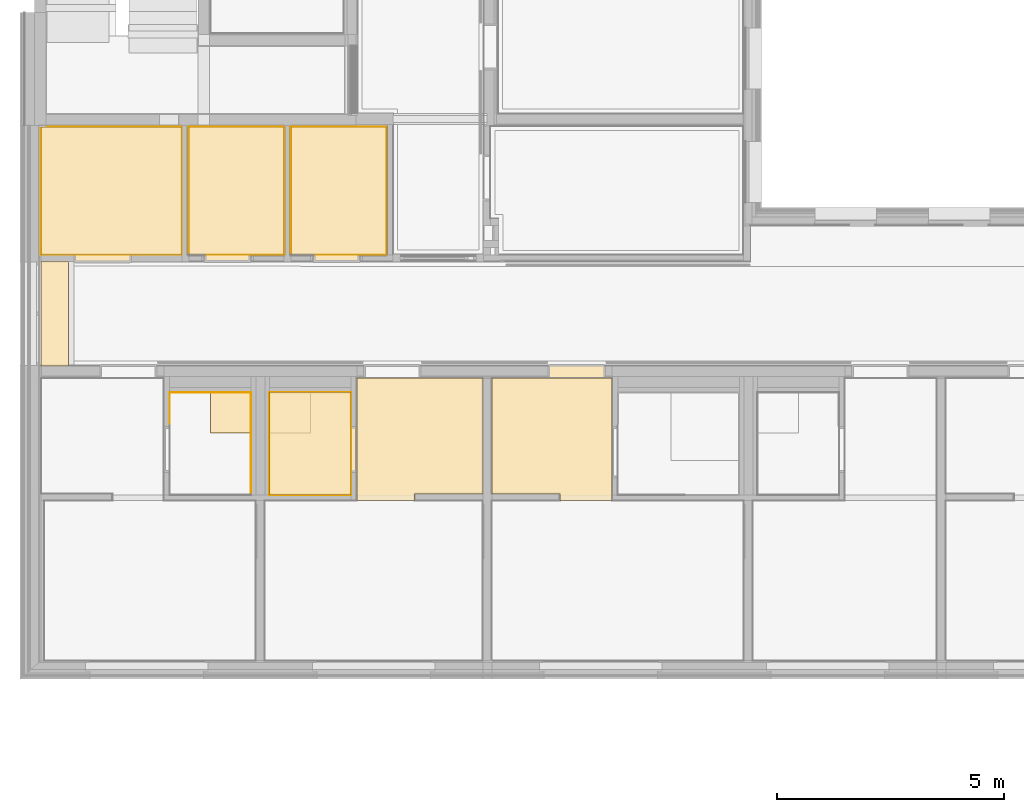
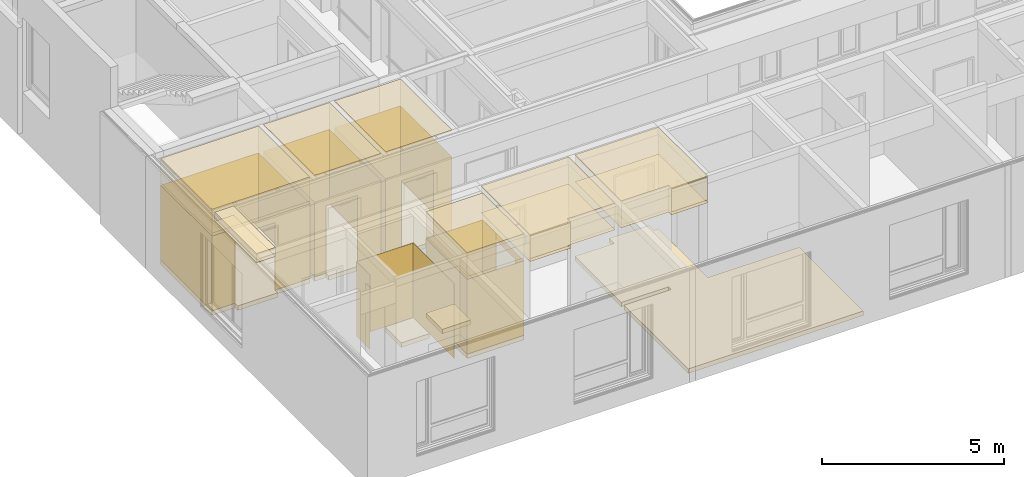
# One storey, part 154 of 222: 36 coverings.
"""IFC4 building model written with IfcOpenShell, lengths in metres."""

from ifc_helpers import new_model, entity, si_unit, converted_unit, derived_unit, frame, frame_2d, origin, origin_with_axes, place, context, subcontext, project, spatial, polyline, rectangle, outline, extrude, material, layer, layer_set, layer_usage, element, save


model = new_model("IFC4")

# Units and contexts
model_context = context("Model", 3, precision=1e-05, world=origin())
body_context = subcontext(model_context, "Body", "Model", "MODEL_VIEW")
ifc_project = project(units=[si_unit("LENGTHUNIT", "METRE"), si_unit("AREAUNIT", "SQUARE_METRE"), si_unit("VOLUMEUNIT", "CUBIC_METRE"), si_unit("MASSUNIT", "GRAM", prefix="KILO"), converted_unit("PLANEANGLEUNIT", "DEGREE", entity("IfcPlaneAngleMeasure", 0.0174532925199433), si_unit("PLANEANGLEUNIT", "RADIAN"), dimensions=[0, 0, 0, 0, 0, 0, 0]), derived_unit("THERMALTRANSMITTANCEUNIT", [(si_unit("POWERUNIT", "WATT"), 1), (si_unit("THERMODYNAMICTEMPERATUREUNIT", "KELVIN"), -1), (si_unit("LENGTHUNIT", "METRE"), -2)]), derived_unit("VOLUMETRICFLOWRATEUNIT", [(si_unit("LENGTHUNIT", "METRE"), 3), (converted_unit("TIMEUNIT", "hour", entity("IfcTimeMeasure", 3600.0), si_unit("TIMEUNIT", "SECOND"), dimensions=[0, 0, 1, 0, 0, 0, 0]), -1), (si_unit("LENGTHUNIT", "METRE"), -1)])], contexts=[model_context])

# Site, building, storey, space
site_placement = place(None, origin())
site = spatial("IfcSite", under=ifc_project, at=site_placement, Name="Psychiatrie Neubau Wunstorf", CompositionType="ELEMENT")
building_placement = place(site_placement, origin())
building = spatial("IfcBuilding", under=site, at=building_placement, Name="Neubau H2 Stationsgebäude", CompositionType="ELEMENT")
storey_placement = place(building_placement, frame((0.0, 0.0, 3.6)))
storey = spatial("IfcBuildingStorey", under=building, at=storey_placement, Name="H2 Ebene +1", CompositionType="ELEMENT", Elevation=3.6)
space_1_placement = place(storey_placement, frame((0.168999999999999, 4.33074963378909, 0.0)))
space_1 = spatial("IfcSpace", under=storey, at=space_1_placement, Name="WUN-H2-E01-073", CompositionType="ELEMENT")

# Coverings
ifc_material_1 = material()
ifc_layer_1 = layer(ifc_material_1, 0.036)
ifc_layer_set_1 = layer_set([ifc_layer_1])
ifc_layer_usage_1 = layer_usage(ifc_layer_set_1, "AXIS3", "POSITIVE", 0.0)
covering_1_placement = place(space_1_placement, frame((0.0, 0.0, 3.55)))
element("IfcCovering", 1, at=covering_1_placement, inside=space_1, material=ifc_layer_usage_1, Name="Gipsfaserplatten 2-lagig (BSK)", PredefinedType="CEILING", context=body_context, shape_type="SweptSolid", body=[
    extrude(rectangle(XDim=0.601, YDim=2.2942502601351, at=frame_2d((-0.3005, -1.14712513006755), x_axis=(-1.0, 0.0))), frame((0.601, 0.0, 0.0), z_axis=(0.0, 0.0, -1.0), x_axis=(1.0, 0.0, 0.0)), (0.0, 0.0, 1.0), 0.036),
])
ifc_material_2 = material(Name="Installationshöhe")
ifc_layer_2 = layer(ifc_material_2, 0.164)
ifc_layer_set_2 = layer_set([ifc_layer_2])
ifc_layer_usage_2 = layer_usage(ifc_layer_set_2, "AXIS3", "POSITIVE", 0.0)
covering_2_placement = place(space_1_placement, frame((0.0, 0.0, 3.514)))
element("IfcCovering", 2, at=covering_2_placement, inside=space_1, material=ifc_layer_usage_2, Name="Gipsfaserplatten 2-lagig (BSK)", PredefinedType="CEILING", context=body_context, shape_type="SweptSolid", body=[
    extrude(rectangle(XDim=0.601, YDim=2.2942502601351, at=frame_2d((-0.3005, -1.14712513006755), x_axis=(-1.0, 0.0))), frame((0.601, 0.0, 0.0), z_axis=(0.0, 0.0, -1.0), x_axis=(1.0, 0.0, 0.0)), (0.0, 0.0, 1.0), 0.164),
])
ifc_material_3 = material(Name="A1")
ifc_layer_3 = layer(ifc_material_3, 0.1)
ifc_layer_set_3 = layer_set([ifc_layer_3])
ifc_layer_usage_3 = layer_usage(ifc_layer_set_3, "AXIS3", "POSITIVE", 0.0)
covering_3_placement = place(space_1_placement, frame((0.0, 0.0, 3.35)))
element("IfcCovering", 3, at=covering_3_placement, inside=space_1, material=ifc_layer_usage_3, Name="Gipsfaserplatten 2-lagig (BSK)", PredefinedType="CEILING", context=body_context, shape_type="SweptSolid", body=[
    extrude(rectangle(XDim=0.601, YDim=2.2942502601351, at=frame_2d((-0.3005, -1.14712513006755), x_axis=(-1.0, 0.0))), frame((0.601, 0.0, 0.0), z_axis=(0.0, 0.0, -1.0), x_axis=(1.0, 0.0, 0.0)), (0.0, 0.0, 1.0), 0.1),
])
ifc_material_4 = material(Name="D1")
ifc_layer_4 = layer(ifc_material_4, 0.001)
ifc_layer_set_4 = layer_set([ifc_layer_4])
ifc_layer_usage_4 = layer_usage(ifc_layer_set_4, "AXIS3", "POSITIVE", 0.0)
covering_4_placement = place(space_1_placement, frame((0.0, 0.0, 3.25)))
element("IfcCovering", 4, at=covering_4_placement, inside=space_1, material=ifc_layer_usage_4, Name="Gipsfaserplatten 2-lagig (BSK)", PredefinedType="CEILING", context=body_context, shape_type="SweptSolid", body=[
    extrude(rectangle(XDim=0.601, YDim=2.2942502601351, at=frame_2d((-0.3005, -1.14712513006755), x_axis=(-1.0, 0.0))), frame((0.601, 0.0, 0.0), z_axis=(0.0, 0.0, -1.0), x_axis=(1.0, 0.0, 0.0)), (0.0, 0.0, 1.0), 0.001),
])

# Space
space_2_placement = place(storey_placement, frame((10.1, -2.16399999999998, 0.0)))
space_2 = spatial("IfcSpace", under=storey, at=space_2_placement, Name="WUN-H2-E01-023", CompositionType="ELEMENT")

# Coverings
ifc_material_5 = material()
ifc_layer_5 = layer(ifc_material_5, 0.036)
ifc_layer_set_5 = layer_set([ifc_layer_5])
ifc_layer_usage_5 = layer_usage(ifc_layer_set_5, "AXIS3", "POSITIVE", 0.0)
covering_5_placement = place(space_2_placement, frame((0.0, 3.52274963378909, 3.55)))
element("IfcCovering", 5, at=covering_5_placement, inside=space_2, material=ifc_layer_usage_5, Name="Gipsfaserplatten 2-lagig (BSK)", PredefinedType="CEILING", context=body_context, shape_type="SweptSolid", body=[
    extrude(outline(polyline([(0.0, 0.0), (2.65, 0.0), (2.65, 2.69999999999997), (1.50000000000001, 2.69999999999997), (1.50000000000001, 2.54999999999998), (0.0, 2.54999999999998), (0.0, 0.0)])), frame((0.0, 2.69999999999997, 0.0), z_axis=(0.0, 0.0, -1.0), x_axis=(1.0, 0.0, 0.0)), (0.0, 0.0, 1.0), 0.036),
])
ifc_material_6 = material(Name="Installationshöhe")
ifc_layer_6 = layer(ifc_material_6, 0.764)
ifc_layer_set_6 = layer_set([ifc_layer_6])
ifc_layer_usage_6 = layer_usage(ifc_layer_set_6, "AXIS3", "POSITIVE", 0.0)
covering_6_placement = place(space_2_placement, frame((0.0, 3.52274963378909, 3.514)))
element("IfcCovering", 6, at=covering_6_placement, inside=space_2, material=ifc_layer_usage_6, Name="Gipsfaserplatten 2-lagig (BSK)", PredefinedType="CEILING", context=body_context, shape_type="SweptSolid", body=[
    extrude(outline(polyline([(0.0, 0.0), (2.65, 0.0), (2.65, 2.69999999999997), (1.50000000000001, 2.69999999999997), (1.50000000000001, 2.54999999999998), (0.0, 2.54999999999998), (0.0, 0.0)])), frame((0.0, 2.69999999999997, 0.0), z_axis=(0.0, 0.0, -1.0), x_axis=(1.0, 0.0, 0.0)), (0.0, 0.0, 1.0), 0.764),
])
ifc_material_7 = material(Name="A1")
ifc_layer_7 = layer(ifc_material_7, 0.1)
ifc_layer_set_7 = layer_set([ifc_layer_7])
ifc_layer_usage_7 = layer_usage(ifc_layer_set_7, "AXIS3", "POSITIVE", 0.0)
covering_7_placement = place(space_2_placement, frame((0.0, 3.52274963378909, 2.75)))
element("IfcCovering", 7, at=covering_7_placement, inside=space_2, material=ifc_layer_usage_7, Name="Gipsfaserplatten 2-lagig (BSK)", PredefinedType="CEILING", context=body_context, shape_type="SweptSolid", body=[
    extrude(outline(polyline([(0.0, 0.0), (2.65, 0.0), (2.65, 2.69999999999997), (1.50000000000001, 2.69999999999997), (1.50000000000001, 2.54999999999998), (0.0, 2.54999999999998), (0.0, 0.0)])), frame((0.0, 2.69999999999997, 0.0), z_axis=(0.0, 0.0, -1.0), x_axis=(1.0, 0.0, 0.0)), (0.0, 0.0, 1.0), 0.1),
])
ifc_material_8 = material(Name="D1")
ifc_layer_8 = layer(ifc_material_8, 0.001)
ifc_layer_set_8 = layer_set([ifc_layer_8])
ifc_layer_usage_8 = layer_usage(ifc_layer_set_8, "AXIS3", "POSITIVE", 0.0)
covering_8_placement = place(space_2_placement, frame((0.0, 3.52274963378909, 2.65)))
element("IfcCovering", 8, at=covering_8_placement, inside=space_2, material=ifc_layer_usage_8, Name="Gipsfaserplatten 2-lagig (BSK)", PredefinedType="CEILING", context=body_context, shape_type="SweptSolid", body=[
    extrude(outline(polyline([(0.0, 0.0), (2.65, 0.0), (2.65, 2.69999999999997), (1.50000000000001, 2.69999999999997), (1.50000000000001, 2.54999999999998), (0.0, 2.54999999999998), (0.0, 0.0)])), frame((0.0, 2.69999999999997, 0.0), z_axis=(0.0, 0.0, -1.0), x_axis=(1.0, 0.0, 0.0)), (0.0, 0.0, 1.0), 0.001),
])
ifc_material_9 = material(Name="Ku1")
ifc_layer_9 = layer(ifc_material_9, 0.15)
ifc_layer_set_9 = layer_set([ifc_layer_9])
ifc_layer_usage_9 = layer_usage(ifc_layer_set_9, "AXIS3", "POSITIVE", 0.0)
covering_9_placement = place(space_2_placement, origin())
element("IfcCovering", 9, at=covering_9_placement, inside=space_2, material=ifc_layer_usage_9, Name="PVC Bahnenware Holzoptik", PredefinedType="FLOORING", context=body_context, shape_type="SweptSolid", body=[
    extrude(rectangle(XDim=0.271999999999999, YDim=1.26, at=frame_2d((-0.63, 0.136), x_axis=(0.0, 1.0))), frame((2.5, 6.22274963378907, 0.0), z_axis=(0.0, 0.0, 1.0), x_axis=(1.0, 0.0, 0.0)), (0.0, 0.0, 1.0), 0.15),
    extrude(outline(polyline([(1.50000000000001, 3.52274963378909), (0.0, 3.52274963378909), (0.0, 0.0), (5.55, 0.0), (5.55, 3.52274963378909), (2.65, 3.52274963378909), (2.65, 6.22274963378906), (0.0, 6.22274963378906), (0.0, 3.67274963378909), (1.50000000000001, 3.67274963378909), (1.50000000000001, 3.52274963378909)])), origin_with_axes(), (0.0, 0.0, 1.0), 0.15),
])

# Space
space_3_placement = place(storey_placement, frame((5.1, -2.16399999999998, 0.0)))
space_3 = spatial("IfcSpace", under=storey, at=space_3_placement, Name="WUN-H2-E01-024", CompositionType="ELEMENT")

# Coverings
ifc_material_10 = material()
ifc_layer_10 = layer(ifc_material_10, 0.036)
ifc_layer_set_10 = layer_set([ifc_layer_10])
ifc_layer_usage_10 = layer_usage(ifc_layer_set_10, "AXIS3", "POSITIVE", 0.0)
covering_10_placement = place(space_3_placement, frame((2.025, 3.52274963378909, 3.55)))
element("IfcCovering", 10, at=covering_10_placement, inside=space_3, material=ifc_layer_usage_10, Name="Gipsfaserplatten 2-lagig (BSK)", PredefinedType="CEILING", context=body_context, shape_type="SweptSolid", body=[
    extrude(outline(polyline([(2.77499999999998, 0.0), (2.775, 2.54999999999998), (1.27499999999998, 2.54999999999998), (1.27499999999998, 2.69999999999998), (0.0, 2.69999999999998), (0.0, 0.0), (2.77499999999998, 0.0)])), frame((0.0, 2.69999999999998, 0.0), z_axis=(0.0, 0.0, -1.0), x_axis=(1.0, 0.0, 0.0)), (0.0, 0.0, 1.0), 0.036),
])
ifc_material_11 = material(Name="Installationshöhe")
ifc_layer_11 = layer(ifc_material_11, 0.764)
ifc_layer_set_11 = layer_set([ifc_layer_11])
ifc_layer_usage_11 = layer_usage(ifc_layer_set_11, "AXIS3", "POSITIVE", 0.0)
covering_11_placement = place(space_3_placement, frame((2.025, 3.52274963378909, 3.514)))
element("IfcCovering", 11, at=covering_11_placement, inside=space_3, material=ifc_layer_usage_11, Name="Gipsfaserplatten 2-lagig (BSK)", PredefinedType="CEILING", context=body_context, shape_type="SweptSolid", body=[
    extrude(outline(polyline([(2.77499999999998, 0.0), (2.775, 2.54999999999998), (1.27499999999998, 2.54999999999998), (1.27499999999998, 2.69999999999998), (0.0, 2.69999999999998), (0.0, 0.0), (2.77499999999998, 0.0)])), frame((0.0, 2.69999999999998, 0.0), z_axis=(0.0, 0.0, -1.0), x_axis=(1.0, 0.0, 0.0)), (0.0, 0.0, 1.0), 0.764),
])
ifc_material_12 = material(Name="A1")
ifc_layer_12 = layer(ifc_material_12, 0.1)
ifc_layer_set_12 = layer_set([ifc_layer_12])
ifc_layer_usage_12 = layer_usage(ifc_layer_set_12, "AXIS3", "POSITIVE", 0.0)
covering_12_placement = place(space_3_placement, frame((2.025, 3.52274963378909, 2.75)))
element("IfcCovering", 12, at=covering_12_placement, inside=space_3, material=ifc_layer_usage_12, Name="Gipsfaserplatten 2-lagig (BSK)", PredefinedType="CEILING", context=body_context, shape_type="SweptSolid", body=[
    extrude(outline(polyline([(2.77499999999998, 0.0), (2.775, 2.54999999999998), (1.27499999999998, 2.54999999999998), (1.27499999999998, 2.69999999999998), (0.0, 2.69999999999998), (0.0, 0.0), (2.77499999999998, 0.0)])), frame((0.0, 2.69999999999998, 0.0), z_axis=(0.0, 0.0, -1.0), x_axis=(1.0, 0.0, 0.0)), (0.0, 0.0, 1.0), 0.1),
])
ifc_material_13 = material(Name="D1")
ifc_layer_13 = layer(ifc_material_13, 0.001)
ifc_layer_set_13 = layer_set([ifc_layer_13])
ifc_layer_usage_13 = layer_usage(ifc_layer_set_13, "AXIS3", "POSITIVE", 0.0)
covering_13_placement = place(space_3_placement, frame((2.025, 3.52274963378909, 2.65)))
element("IfcCovering", 13, at=covering_13_placement, inside=space_3, material=ifc_layer_usage_13, Name="Gipsfaserplatten 2-lagig (BSK)", PredefinedType="CEILING", context=body_context, shape_type="SweptSolid", body=[
    extrude(outline(polyline([(2.77499999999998, 0.0), (2.775, 2.54999999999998), (1.27499999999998, 2.54999999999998), (1.27499999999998, 2.69999999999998), (0.0, 2.69999999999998), (0.0, 0.0), (2.77499999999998, 0.0)])), frame((0.0, 2.69999999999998, 0.0), z_axis=(0.0, 0.0, -1.0), x_axis=(1.0, 0.0, 0.0)), (0.0, 0.0, 1.0), 0.001),
])

# Space
space_4_placement = place(storey_placement, frame((5.2, 1.4837496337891, 0.0)))
space_4 = spatial("IfcSpace", under=storey, at=space_4_placement, Name="WUN-H2-E01-024a", CompositionType="ELEMENT")

# Coverings
ifc_material_14 = material(Name="Fl2")
ifc_layer_14 = layer(ifc_material_14, 0.15)
ifc_layer_set_14 = layer_set([ifc_layer_14])
ifc_layer_usage_14 = layer_usage(ifc_layer_set_14, "AXIS3", "POSITIVE", 0.0)
covering_14_placement = place(space_4_placement, frame((0.0, 1.36499999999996, 0.0)))
element("IfcCovering", 14, at=covering_14_placement, inside=space_4, material=ifc_layer_usage_14, Name="Fliesen Mosaik", PredefinedType="FLOORING", context=body_context, shape_type="SweptSolid", body=[
    extrude(rectangle(XDim=0.9, YDim=0.9, at=frame_2d((0.45, -0.45), x_axis=(0.0, -1.0))), frame((0.0, 0.9, 0.0), z_axis=(0.0, 0.0, 1.0), x_axis=(1.0, 0.0, 0.0)), (0.0, 0.0, 1.0), 0.15),
])
ifc_material_15 = material(Name="Fl1")
ifc_layer_15 = layer(ifc_material_15, 0.15)
ifc_layer_set_15 = layer_set([ifc_layer_15])
ifc_layer_usage_15 = layer_usage(ifc_layer_set_15, "AXIS3", "POSITIVE", 0.0)
covering_15_placement = place(space_4_placement, origin())
element("IfcCovering", 15, at=covering_15_placement, inside=space_4, material=ifc_layer_usage_15, Name="Fliesen", PredefinedType="FLOORING", context=body_context, shape_type="SweptSolid", body=[
    extrude(rectangle(XDim=0.125, YDim=1.01, at=frame_2d((-0.0625, -0.505), x_axis=(-1.0, 0.0))), frame((1.925, 1.51000000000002, 0.0), z_axis=(0.0, 0.0, 1.0), x_axis=(1.0, 0.0, 0.0)), (0.0, 0.0, 1.0), 0.15),
    extrude(outline(polyline([(0.0, 0.0), (1.8, 0.0), (1.8, 2.26499999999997), (0.899999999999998, 2.26499999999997), (0.899999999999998, 1.36499999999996), (0.0, 1.36499999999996), (0.0, 0.0)])), origin_with_axes(), (0.0, 0.0, 1.0), 0.15),
])
ifc_material_16 = material()
ifc_layer_16 = layer(ifc_material_16, 0.036)
ifc_layer_set_16 = layer_set([ifc_layer_16])
ifc_layer_usage_16 = layer_usage(ifc_layer_set_16, "AXIS3", "POSITIVE", 0.0)
covering_16_placement = place(space_4_placement, frame((0.0, 0.0, 3.55)))
element("IfcCovering", 16, at=covering_16_placement, inside=space_4, material=ifc_layer_usage_16, Name="Gipsfaserplatten 2-lagig (BSK)", PredefinedType="CEILING", context=body_context, shape_type="SweptSolid", body=[
    extrude(rectangle(XDim=1.8, YDim=2.26499999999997, at=frame_2d((0.9, 1.13249999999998), x_axis=(1.0, 0.0))), frame((0.0, 2.26499999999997, 0.0), z_axis=(0.0, 0.0, -1.0), x_axis=(1.0, 0.0, 0.0)), (0.0, 0.0, 1.0), 0.036),
])
ifc_material_17 = material(Name="Installationshöhe")
ifc_layer_17 = layer(ifc_material_17, 0.764)
ifc_layer_set_17 = layer_set([ifc_layer_17])
ifc_layer_usage_17 = layer_usage(ifc_layer_set_17, "AXIS3", "POSITIVE", 0.0)
covering_17_placement = place(space_4_placement, frame((0.0, 0.0, 3.514)))
element("IfcCovering", 17, at=covering_17_placement, inside=space_4, material=ifc_layer_usage_17, Name="Gipsfaserplatten 2-lagig (BSK)", PredefinedType="CEILING", context=body_context, shape_type="SweptSolid", body=[
    extrude(rectangle(XDim=1.8, YDim=2.26499999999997, at=frame_2d((0.9, 1.13249999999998), x_axis=(1.0, 0.0))), frame((0.0, 2.26499999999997, 0.0), z_axis=(0.0, 0.0, -1.0), x_axis=(1.0, 0.0, 0.0)), (0.0, 0.0, 1.0), 0.764),
])
ifc_material_18 = material(Name="B")
ifc_layer_18 = layer(ifc_material_18, 0.1)
ifc_layer_set_18 = layer_set([ifc_layer_18])
ifc_layer_usage_18 = layer_usage(ifc_layer_set_18, "AXIS3", "POSITIVE", 0.0)
covering_18_placement = place(space_4_placement, frame((0.0, 0.0, 2.75)))
element("IfcCovering", 18, at=covering_18_placement, inside=space_4, material=ifc_layer_usage_18, Name="Gipskarton, imprägniert", PredefinedType="CEILING", context=body_context, shape_type="SweptSolid", body=[
    extrude(rectangle(XDim=1.8, YDim=2.26499999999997, at=frame_2d((0.9, 1.13249999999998), x_axis=(1.0, 0.0))), frame((0.0, 2.26499999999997, 0.0), z_axis=(0.0, 0.0, -1.0), x_axis=(1.0, 0.0, 0.0)), (0.0, 0.0, 1.0), 0.1),
])
ifc_material_19 = material(Name="D1")
ifc_layer_19 = layer(ifc_material_19, 0.001)
ifc_layer_set_19 = layer_set([ifc_layer_19])
ifc_layer_usage_19 = layer_usage(ifc_layer_set_19, "AXIS3", "POSITIVE", 0.0)
covering_19_placement = place(space_4_placement, frame((0.0, 0.0, 2.65)))
element("IfcCovering", 19, at=covering_19_placement, inside=space_4, material=ifc_layer_usage_19, Name="Gipsfaserplatten 2-lagig (BSK)", PredefinedType="CEILING", context=body_context, shape_type="SweptSolid", body=[
    extrude(rectangle(XDim=1.8, YDim=2.26499999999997, at=frame_2d((0.9, 1.13249999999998), x_axis=(1.0, 0.0))), frame((0.0, 2.26499999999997, 0.0), z_axis=(0.0, 0.0, -1.0), x_axis=(1.0, 0.0, 0.0)), (0.0, 0.0, 1.0), 0.001),
])
ifc_material_20 = material(Name="50")
ifc_layer_20 = layer(ifc_material_20, 0.001)
ifc_layer_set_20 = layer_set([ifc_layer_20])
ifc_layer_usage_20 = layer_usage(ifc_layer_set_20, "AXIS3", "POSITIVE", 0.0)
covering_20_placement = place(space_4_placement, frame((0.0, 0.0, 0.15)))
element("IfcCovering", 20, at=covering_20_placement, inside=space_4, material=ifc_layer_usage_20, PredefinedType="CLADDING", context=body_context, shape_type="SweptSolid", body=[
    extrude(rectangle(XDim=1.8, YDim=2.5, at=frame_2d((0.9, -1.25), x_axis=(1.0, 0.0))), frame((0.0, 0.0, 0.0), z_axis=(0.0, 1.0, 0.0), x_axis=(1.0, 0.0, 0.0)), (0.0, 0.0, 1.0), 0.001),
    extrude(outline(polyline([(0.0, 2.5), (0.500000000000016, 2.5), (0.500000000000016, 0.24), (1.51000000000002, 0.24), (1.51000000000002, 2.5), (1.52500000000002, 2.5), (1.52500000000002, 0.0), (0.0, 0.0), (0.0, 2.5)])), frame((1.8, 0.0, 2.5), z_axis=(-1.0, -1.11521462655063e-17, -6.99332505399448e-17), x_axis=(-1.11521462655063e-17, 1.0, 0.0)), (0.0, 0.0, 1.0), 0.001),
])
ifc_material_21 = material(Name="68")
ifc_layer_21 = layer(ifc_material_21, 0.01)
ifc_layer_set_21 = layer_set([ifc_layer_21])
ifc_layer_usage_21 = layer_usage(ifc_layer_set_21, "AXIS3", "POSITIVE", 0.0)
covering_21_placement = place(space_4_placement, frame((0.0, 0.0, 0.15)))
element("IfcCovering", 21, at=covering_21_placement, inside=space_4, material=ifc_layer_usage_21, Name="a-sh Wandbelag", PredefinedType="CLADDING", context=body_context, shape_type="SweptSolid", body=[
    extrude(rectangle(XDim=0.739999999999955, YDim=2.5, at=frame_2d((0.369999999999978, -1.25), x_axis=(1.0, 0.0))), frame((1.8, 1.52500000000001, 0.0), z_axis=(-1.0, 0.0, 0.0), x_axis=(0.0, 1.0, 0.0)), (0.0, 0.0, 1.0), 0.01),
    extrude(rectangle(XDim=2.26499999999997, YDim=2.5, at=frame_2d((1.13249999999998, -1.25), x_axis=(1.0, 0.0))), frame((0.0, 2.26499999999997, 0.0), z_axis=(1.0, 0.0, 0.0), x_axis=(0.0, -1.0, 0.0)), (0.0, 0.0, 1.0), 0.01),
    extrude(rectangle(XDim=1.8, YDim=2.5, at=frame_2d((0.899999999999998, -1.25), x_axis=(1.0, 0.0))), frame((1.8, 2.26499999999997, 0.0), z_axis=(0.0, -1.0, 0.0), x_axis=(-1.0, 0.0, 0.0)), (0.0, 0.0, 1.0), 0.01),
])

# Space
space_5_placement = place(storey_placement, frame((3.0, 1.48374963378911, 0.0)))
space_5 = spatial("IfcSpace", under=storey, at=space_5_placement, Name="WUN-H2-E01-025a", CompositionType="ELEMENT")

# Coverings
ifc_material_22 = material(Name="Fl2")
ifc_layer_22 = layer(ifc_material_22, 0.15)
ifc_layer_set_22 = layer_set([ifc_layer_22])
ifc_layer_usage_22 = layer_usage(ifc_layer_set_22, "AXIS3", "POSITIVE", 0.0)
covering_22_placement = place(space_5_placement, frame((0.9, 1.36499999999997, 0.0)))
element("IfcCovering", 22, at=covering_22_placement, inside=space_5, material=ifc_layer_usage_22, Name="Fliesen Mosaik", PredefinedType="FLOORING", context=body_context, shape_type="SweptSolid", body=[
    extrude(rectangle(XDim=0.9, YDim=0.899999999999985, at=frame_2d((-0.45, -0.449999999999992), x_axis=(-1.0, 0.0))), frame((0.9, 0.899999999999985, 0.0), z_axis=(0.0, 0.0, 1.0), x_axis=(1.0, 0.0, 0.0)), (0.0, 0.0, 1.0), 0.15),
])
ifc_material_23 = material(Name="68")
ifc_layer_23 = layer(ifc_material_23, 0.01)
ifc_layer_set_23 = layer_set([ifc_layer_23])
ifc_layer_usage_23 = layer_usage(ifc_layer_set_23, "AXIS3", "POSITIVE", 0.0)
covering_23_placement = place(space_5_placement, frame((0.0, 0.0, 0.15)))
element("IfcCovering", 23, at=covering_23_placement, inside=space_5, material=ifc_layer_usage_23, Name="a-sh Wandbelag", PredefinedType="CLADDING", context=body_context, shape_type="SweptSolid", body=[
    extrude(rectangle(XDim=2.26499999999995, YDim=2.5, at=frame_2d((1.13249999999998, -1.25), x_axis=(1.0, 0.0))), frame((1.8, 0.0, 0.0), z_axis=(-1.0, 0.0, 0.0), x_axis=(0.0, 1.0, 0.0)), (0.0, 0.0, 1.0), 0.01),
    extrude(rectangle(XDim=0.739999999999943, YDim=2.5, at=frame_2d((0.369999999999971, -1.25), x_axis=(1.0, 0.0))), frame((0.0, 2.26499999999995, 0.0), z_axis=(1.0, 0.0, 0.0), x_axis=(0.0, -1.0, 0.0)), (0.0, 0.0, 1.0), 0.01),
    extrude(rectangle(XDim=1.8, YDim=2.5, at=frame_2d((0.9, -1.25), x_axis=(1.0, 0.0))), frame((1.8, 2.26499999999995, 0.0), z_axis=(0.0, -1.0, 0.0), x_axis=(-1.0, 0.0, 0.0)), (0.0, 0.0, 1.0), 0.01),
])

# Space
space_6_placement = place(storey_placement, frame((3.425, 6.77499989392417, 0.0)))
space_6 = spatial("IfcSpace", under=storey, at=space_6_placement, Name="WUN-H2-E01-027", CompositionType="ELEMENT")

# Coverings
ifc_material_24 = material(Name="Ku3")
ifc_layer_24 = layer(ifc_material_24, 0.15)
ifc_layer_set_24 = layer_set([ifc_layer_24])
ifc_layer_usage_24 = layer_usage(ifc_layer_set_24, "AXIS3", "POSITIVE", 0.0)
covering_24_placement = place(space_6_placement, frame((0.0, -0.150000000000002, 0.0)))
element("IfcCovering", 24, at=covering_24_placement, inside=space_6, material=ifc_layer_usage_24, Name="PVC", PredefinedType="FLOORING", context=body_context, shape_type="SweptSolid", body=[
    extrude(rectangle(XDim=0.15, YDim=1.01, at=frame_2d((-0.505, 0.075), x_axis=(0.0, 1.0))), frame((1.36, 0.0, 0.0), z_axis=(0.0, 0.0, 1.0), x_axis=(1.0, 0.0, 0.0)), (0.0, 0.0, 1.0), 0.15),
    extrude(rectangle(XDim=2.82, YDim=2.1, at=frame_2d((-1.05, 1.41), x_axis=(0.0, 1.0))), frame((2.1, 0.150000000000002, 0.0), z_axis=(0.0, 0.0, 1.0), x_axis=(1.0, 0.0, 0.0)), (0.0, 0.0, 1.0), 0.15),
])
ifc_material_25 = material(Name="C/C")
ifc_layer_25 = layer(ifc_material_25, 0.036)
ifc_layer_set_25 = layer_set([ifc_layer_25])
ifc_layer_usage_25 = layer_usage(ifc_layer_set_25, "AXIS3", "POSITIVE", 0.0)
covering_25_placement = place(space_6_placement, frame((0.0, 0.0, 3.55)))
element("IfcCovering", 25, at=covering_25_placement, inside=space_6, material=ifc_layer_usage_25, Name="Gipsfaserplatten 2-lagig (BSK)", PredefinedType="CEILING", context=body_context, shape_type="SweptSolid", body=[
    extrude(rectangle(XDim=2.82, YDim=2.1, at=frame_2d((-1.05, 1.41), x_axis=(0.0, 1.0))), frame((2.1, 2.82, 0.0), z_axis=(0.0, 0.0, -1.0), x_axis=(1.0, 0.0, 0.0)), (0.0, 0.0, 1.0), 0.036),
])
ifc_material_26 = material(Name="D4")
ifc_layer_26 = layer(ifc_material_26, 0.001)
ifc_layer_set_26 = layer_set([ifc_layer_26])
ifc_layer_usage_26 = layer_usage(ifc_layer_set_26, "AXIS3", "POSITIVE", 0.0)
covering_26_placement = place(space_6_placement, frame((0.0, 0.0, 3.514)))
element("IfcCovering", 26, at=covering_26_placement, inside=space_6, material=ifc_layer_usage_26, Name="Gipsfaserplatten 2-lagig (BSK)", PredefinedType="CEILING", context=body_context, shape_type="SweptSolid", body=[
    extrude(rectangle(XDim=2.82, YDim=2.1, at=frame_2d((-1.05, 1.41), x_axis=(0.0, 1.0))), frame((2.1, 2.82, 0.0), z_axis=(0.0, 0.0, -1.0), x_axis=(1.0, 0.0, 0.0)), (0.0, 0.0, 1.0), 0.001),
])
ifc_material_27 = material(Name="50")
ifc_layer_27 = layer(ifc_material_27, 0.001)
ifc_layer_set_27 = layer_set([ifc_layer_27])
ifc_layer_usage_27 = layer_usage(ifc_layer_set_27, "AXIS3", "POSITIVE", 0.0)
covering_27_placement = place(space_6_placement, frame((0.0, 0.0, 0.15)))
element("IfcCovering", 27, at=covering_27_placement, inside=space_6, material=ifc_layer_usage_27, PredefinedType="CLADDING", context=body_context, shape_type="SweptSolid", body=[
    extrude(rectangle(XDim=2.82, YDim=2.5, at=frame_2d((1.41, -1.25), x_axis=(1.0, 0.0))), frame((0.0, 2.82, 0.0), z_axis=(1.0, 8.0628962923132e-16, 0.0), x_axis=(8.0628962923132e-16, -1.0, 0.0)), (0.0, 0.0, 1.0), 0.001),
    extrude(outline(polyline([(0.0, 2.5), (0.349999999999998, 2.5), (0.349999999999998, 0.24), (1.36, 0.24), (1.36, 2.5), (2.1, 2.5), (2.1, 0.0), (0.0, 0.0), (0.0, 2.5)])), frame((0.0, 0.0, 2.5), z_axis=(-8.61984963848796e-18, 1.0, 2.56799687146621e-16), x_axis=(1.0, 8.61984963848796e-18, 0.0)), (0.0, 0.0, 1.0), 0.001),
    extrude(rectangle(XDim=2.82, YDim=2.5, at=frame_2d((1.41, -1.25), x_axis=(1.0, 0.0))), frame((2.1, 0.0, 0.0), z_axis=(-1.0, 0.0, 0.0), x_axis=(0.0, 1.0, 0.0)), (0.0, 0.0, 1.0), 0.001),
    extrude(rectangle(XDim=2.1, YDim=2.5, at=frame_2d((1.05, -1.25), x_axis=(1.0, 0.0))), frame((2.1, 2.82, 0.0), z_axis=(0.0, -1.0, 0.0), x_axis=(-1.0, 0.0, 0.0)), (0.0, 0.0, 1.0), 0.001),
])

# Space
space_7_placement = place(storey_placement, frame((5.675, 6.77499989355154, 0.0)))
space_7 = spatial("IfcSpace", under=storey, at=space_7_placement, Name="WUN-H2-E01-028", CompositionType="ELEMENT")

# Coverings
ifc_material_28 = material(Name="Ku3")
ifc_layer_28 = layer(ifc_material_28, 0.15)
ifc_layer_set_28 = layer_set([ifc_layer_28])
ifc_layer_usage_28 = layer_usage(ifc_layer_set_28, "AXIS3", "POSITIVE", 0.0)
covering_28_placement = place(space_7_placement, frame((0.0, -0.149999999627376, 0.0)))
element("IfcCovering", 28, at=covering_28_placement, inside=space_7, material=ifc_layer_usage_28, Name="PVC", PredefinedType="FLOORING", context=body_context, shape_type="SweptSolid", body=[
    extrude(rectangle(XDim=0.15, YDim=1.01, at=frame_2d((-0.505, 0.075), x_axis=(0.0, 1.0))), frame((1.51, 0.0, 0.0), z_axis=(0.0, 0.0, 1.0), x_axis=(1.0, 0.0, 0.0)), (0.0, 0.0, 1.0), 0.15),
    extrude(rectangle(XDim=2.1, YDim=2.8200003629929, at=frame_2d((1.05, 1.41000018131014), x_axis=(1.0, -1.77439817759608e-10))), frame((0.0, 0.15, 0.0), z_axis=(0.0, 0.0, 1.0), x_axis=(1.0, 0.0, 0.0)), (0.0, 0.0, 1.0), 0.15),
])
ifc_material_29 = material(Name="C/C")
ifc_layer_29 = layer(ifc_material_29, 0.036)
ifc_layer_set_29 = layer_set([ifc_layer_29])
ifc_layer_usage_29 = layer_usage(ifc_layer_set_29, "AXIS3", "POSITIVE", 0.0)
covering_29_placement = place(space_7_placement, frame((0.0, 0.0, 3.55)))
element("IfcCovering", 29, at=covering_29_placement, inside=space_7, material=ifc_layer_usage_29, Name="Gipsfaserplatten 2-lagig (BSK)", PredefinedType="CEILING", context=body_context, shape_type="SweptSolid", body=[
    extrude(rectangle(XDim=2.1, YDim=2.82000036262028, at=frame_2d((-1.05, -1.41000018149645), x_axis=(-1.0, -1.77439817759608e-10))), frame((2.1, 0.0, 0.0), z_axis=(0.0, 0.0, -1.0), x_axis=(1.0, 0.0, 0.0)), (0.0, 0.0, 1.0), 0.036),
])
ifc_material_30 = material(Name="D4")
ifc_layer_30 = layer(ifc_material_30, 0.001)
ifc_layer_set_30 = layer_set([ifc_layer_30])
ifc_layer_usage_30 = layer_usage(ifc_layer_set_30, "AXIS3", "POSITIVE", 0.0)
covering_30_placement = place(space_7_placement, frame((0.0, 0.0, 3.514)))
element("IfcCovering", 30, at=covering_30_placement, inside=space_7, material=ifc_layer_usage_30, Name="Gipsfaserplatten 2-lagig (BSK)", PredefinedType="CEILING", context=body_context, shape_type="SweptSolid", body=[
    extrude(rectangle(XDim=2.1, YDim=2.82000036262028, at=frame_2d((-1.05, -1.41000018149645), x_axis=(-1.0, -1.77439817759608e-10))), frame((2.1, 0.0, 0.0), z_axis=(0.0, 0.0, -1.0), x_axis=(1.0, 0.0, 0.0)), (0.0, 0.0, 1.0), 0.001),
])
ifc_material_31 = material(Name="50")
ifc_layer_31 = layer(ifc_material_31, 0.001)
ifc_layer_set_31 = layer_set([ifc_layer_31])
ifc_layer_usage_31 = layer_usage(ifc_layer_set_31, "AXIS3", "POSITIVE", 0.0)
covering_31_placement = place(space_7_placement, frame((0.0, 0.0, 0.15)))
element("IfcCovering", 31, at=covering_31_placement, inside=space_7, material=ifc_layer_usage_31, PredefinedType="CLADDING", context=body_context, shape_type="SweptSolid", body=[
    extrude(rectangle(XDim=2.1, YDim=2.5, at=frame_2d((1.05, -1.25), x_axis=(1.0, 0.0))), frame((2.1, 2.82000036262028, 0.0), z_axis=(0.0, -1.0, 0.0), x_axis=(-1.0, 0.0, 0.0)), (0.0, 0.0, 1.0), 0.001),
    extrude(rectangle(XDim=2.82000036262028, YDim=2.5, at=frame_2d((1.41000018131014, -1.25), x_axis=(1.0, 0.0))), frame((0.0, 2.82000036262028, 0.0), z_axis=(1.0, 0.0, 0.0), x_axis=(0.0, -1.0, 0.0)), (0.0, 0.0, 1.0), 0.001),
    extrude(outline(polyline([(0.0, 2.5), (0.5, 2.5), (0.5, 0.24), (1.51, 0.24), (1.51, 2.5), (2.1, 2.5), (2.1, 0.0), (0.0, 0.0), (0.0, 2.5)])), frame((0.0, 0.0, 2.5), z_axis=(1.45450920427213e-10, 1.0, -2.13376702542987e-11), x_axis=(1.0, -1.45450920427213e-10, 0.0)), (0.0, 0.0, 1.0), 0.001),
    extrude(rectangle(XDim=2.8200003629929, YDim=2.5, at=frame_2d((1.41000018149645, -1.25), x_axis=(1.0, 0.0))), frame((2.1, 0.0, 0.0), z_axis=(-1.0, 0.0, 0.0), x_axis=(0.0, 1.0, 0.0)), (0.0, 0.0, 1.0), 0.001),
])

# Space
space_8_placement = place(storey_placement, frame((0.168999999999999, 6.77499989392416, 0.0)))
space_8 = spatial("IfcSpace", under=storey, at=space_8_placement, Name="WUN-H2-E01-026", CompositionType="ELEMENT")

# Coverings
ifc_material_32 = material(Name="Ku2")
ifc_layer_32 = layer(ifc_material_32, 0.15)
ifc_layer_set_32 = layer_set([ifc_layer_32])
ifc_layer_usage_32 = layer_usage(ifc_layer_set_32, "AXIS3", "POSITIVE", 0.0)
covering_32_placement = place(space_8_placement, frame((0.0, -0.15, 0.0)))
element("IfcCovering", 32, at=covering_32_placement, inside=space_8, material=ifc_layer_usage_32, Name="PVC Bahnenware Uni", PredefinedType="FLOORING", context=body_context, shape_type="SweptSolid", body=[
    extrude(rectangle(XDim=0.15, YDim=1.26, at=frame_2d((-0.63, 0.075), x_axis=(0.0, 1.0))), frame((1.991, 0.0, 0.0), z_axis=(0.0, 0.0, 1.0), x_axis=(1.0, 0.0, 0.0)), (0.0, 0.0, 1.0), 0.15),
    extrude(rectangle(XDim=3.106, YDim=2.82, at=frame_2d((1.553, 1.41), x_axis=(1.0, 0.0))), frame((0.0, 0.15, 0.0), z_axis=(0.0, 0.0, 1.0), x_axis=(1.0, 0.0, 0.0)), (0.0, 0.0, 1.0), 0.15),
])
ifc_material_33 = material()
ifc_layer_33 = layer(ifc_material_33, 0.036)
ifc_layer_set_33 = layer_set([ifc_layer_33])
ifc_layer_usage_33 = layer_usage(ifc_layer_set_33, "AXIS3", "POSITIVE", 0.0)
covering_33_placement = place(space_8_placement, frame((0.0, 0.0, 3.55)))
element("IfcCovering", 33, at=covering_33_placement, inside=space_8, material=ifc_layer_usage_33, Name="Gipsfaserplatten 2-lagig (BSK)", PredefinedType="CEILING", context=body_context, shape_type="SweptSolid", body=[
    extrude(rectangle(XDim=3.106, YDim=2.82, at=frame_2d((-1.553, -1.41), x_axis=(-1.0, 0.0))), frame((3.106, 0.0, 0.0), z_axis=(0.0, 0.0, -1.0), x_axis=(1.0, 0.0, 0.0)), (0.0, 0.0, 1.0), 0.036),
])
ifc_material_34 = material(Name="Installationshöhe")
ifc_layer_34 = layer(ifc_material_34, 0.764)
ifc_layer_set_34 = layer_set([ifc_layer_34])
ifc_layer_usage_34 = layer_usage(ifc_layer_set_34, "AXIS3", "POSITIVE", 0.0)
covering_34_placement = place(space_8_placement, frame((0.0, 0.0, 3.514)))
element("IfcCovering", 34, at=covering_34_placement, inside=space_8, material=ifc_layer_usage_34, Name="Gipsfaserplatten 2-lagig (BSK)", PredefinedType="CEILING", context=body_context, shape_type="SweptSolid", body=[
    extrude(rectangle(XDim=3.106, YDim=2.82, at=frame_2d((-1.553, -1.41), x_axis=(-1.0, 0.0))), frame((3.106, 0.0, 0.0), z_axis=(0.0, 0.0, -1.0), x_axis=(1.0, 0.0, 0.0)), (0.0, 0.0, 1.0), 0.764),
])
ifc_material_35 = material(Name="E3")
ifc_layer_35 = layer(ifc_material_35, 0.1)
ifc_layer_set_35 = layer_set([ifc_layer_35])
ifc_layer_usage_35 = layer_usage(ifc_layer_set_35, "AXIS3", "POSITIVE", 0.0)
covering_35_placement = place(space_8_placement, frame((0.0, 0.0, 2.75)))
element("IfcCovering", 35, at=covering_35_placement, inside=space_8, material=ifc_layer_usage_35, Name="Rasterdecke", PredefinedType="CEILING", context=body_context, shape_type="SweptSolid", body=[
    extrude(rectangle(XDim=3.106, YDim=2.82, at=frame_2d((-1.553, -1.41), x_axis=(-1.0, 0.0))), frame((3.106, 0.0, 0.0), z_axis=(0.0, 0.0, -1.0), x_axis=(1.0, 0.0, 0.0)), (0.0, 0.0, 1.0), 0.1),
])
ifc_material_36 = material(Name="50")
ifc_layer_36 = layer(ifc_material_36, 0.001)
ifc_layer_set_36 = layer_set([ifc_layer_36])
ifc_layer_usage_36 = layer_usage(ifc_layer_set_36, "AXIS3", "POSITIVE", 0.0)
covering_36_placement = place(space_8_placement, frame((0.0, 0.0, 0.15)))
element("IfcCovering", 36, at=covering_36_placement, inside=space_8, material=ifc_layer_usage_36, PredefinedType="CLADDING", context=body_context, shape_type="SweptSolid", body=[
    extrude(rectangle(XDim=3.106, YDim=2.5, at=frame_2d((1.553, -1.25), x_axis=(1.0, 0.0))), frame((3.106, 2.82, 0.0), z_axis=(0.0, -1.0, 0.0), x_axis=(-1.0, 0.0, 0.0)), (0.0, 0.0, 1.0), 0.001),
    extrude(rectangle(XDim=2.82, YDim=2.5, at=frame_2d((1.41, -1.25), x_axis=(1.0, 0.0))), frame((0.0, 2.82, 0.0), z_axis=(1.0, 0.0, 0.0), x_axis=(0.0, -1.0, 0.0)), (0.0, 0.0, 1.0), 0.001),
    extrude(outline(polyline([(0.0, 2.5), (0.731000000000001, 2.5), (0.731000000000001, 0.24), (1.991, 0.24), (1.991, 2.5), (3.106, 2.5), (3.106, 0.0), (0.0, 0.0), (0.0, 2.5)])), frame((0.0, 0.0, 2.5), z_axis=(5.98798249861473e-18, 1.0, -1.08931381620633e-16), x_axis=(1.0, -5.98798249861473e-18, 0.0)), (0.0, 0.0, 1.0), 0.001),
    extrude(rectangle(XDim=2.82, YDim=2.5, at=frame_2d((1.41, -1.25), x_axis=(1.0, 0.0))), frame((3.106, 0.0, 0.0), z_axis=(-1.0, 0.0, 0.0), x_axis=(0.0, 1.0, 0.0)), (0.0, 0.0, 1.0), 0.001),
])

save(model, "model.ifc")
